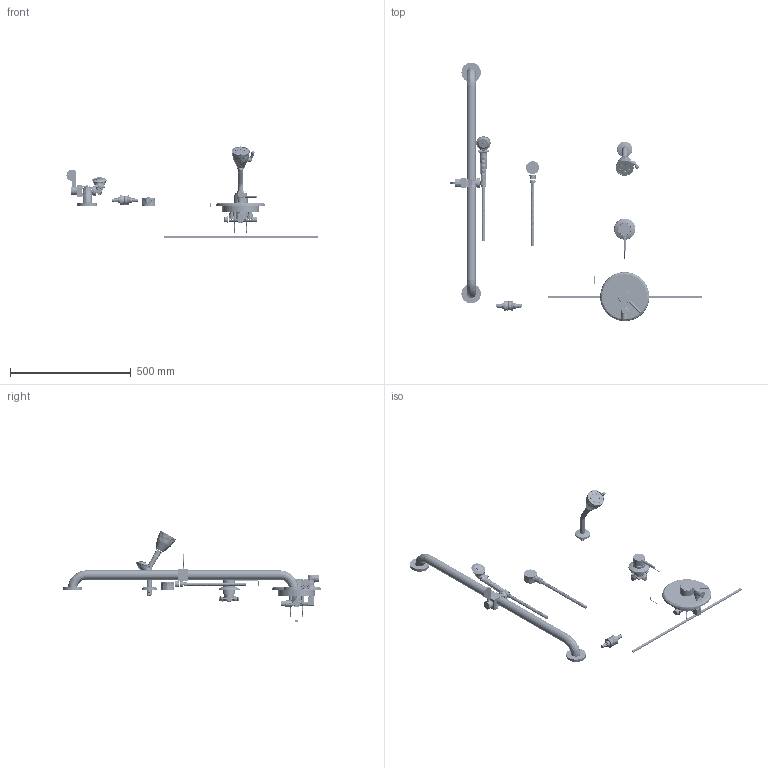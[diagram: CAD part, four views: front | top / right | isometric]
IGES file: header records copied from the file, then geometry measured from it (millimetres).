
Start section:  PTC IGES file: sh-pb4-31-024_REV030624.igs
Global section: file name: sh-pb4-31-024_REV030624.igs; native system: Creo Parametric by PTC Inc.; preprocessor: 2021184; author: rodjo; organization: Unknown; date: 20240306.152045; units: inch
Bounding box: 1037.97 x 1068.85 x 376.32 mm (x, y, z)
Surface area: 618567.2 mm2 (no closed solid volume)
Topology: 0 solids, 0 shells, 1796 faces, 16799 edges, 23199 vertices
Faces by surface type: revolution 1155, bspline 641
